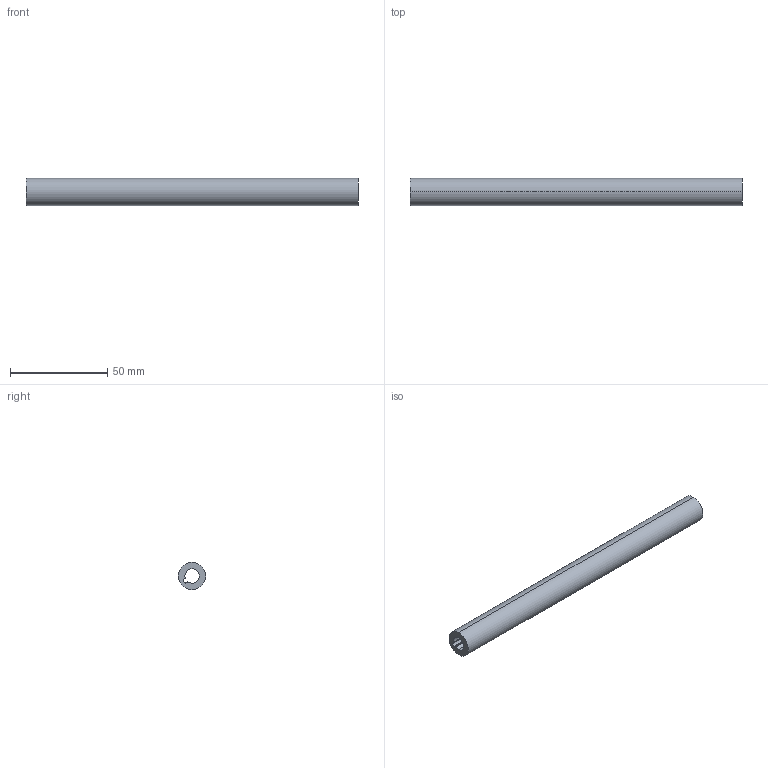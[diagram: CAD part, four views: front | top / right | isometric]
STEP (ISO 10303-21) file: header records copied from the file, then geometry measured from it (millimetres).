
FILE_DESCRIPTION (( 'STEP AP214' ), '1' );
FILE_NAME ('SyncronisationsstangeXP_KAB_300_16.step', '2009-11-24T08:53:20', ( 'Grass' ), ( 'Grass GmbH' ), 'SwSTEP 2.0', 'SolidWorks 2009', '' );
FILE_SCHEMA (( 'AUTOMOTIVE_DESIGN' ));
Length unit declared in the file: millimetre
Products named in the file (1): SyncronisationsstangeXP_KAB_300_16
Bounding box: 171 x 14 x 14 mm (x, y, z)
Volume: 18490.2 mm3; surface area: 12094.5 mm2
Topology: 1 solids, 1 shells, 15 faces, 39 edges, 26 vertices
Faces by surface type: cylinder 11, plane 4
Entity records: 513 total; most frequent: DIRECTION 93, CARTESIAN_POINT 81, ORIENTED_EDGE 78, EDGE_CURVE 39, AXIS2_PLACEMENT_3D 38, VERTEX_POINT 26, CIRCLE 22, VECTOR 17
